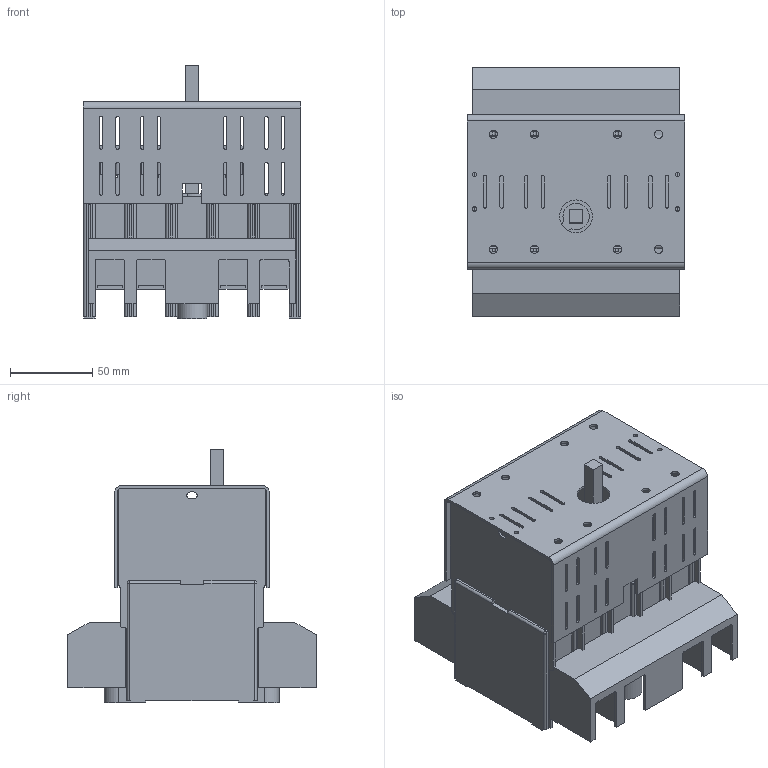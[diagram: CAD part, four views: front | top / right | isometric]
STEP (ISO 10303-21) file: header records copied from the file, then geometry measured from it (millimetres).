
FILE_DESCRIPTION(/* description */ (''),/* implementation_level */ '2;1');
FILE_NAME(/* name */ 'RAB 000 P3 N, P4 z oslona zaciskow.stp',/* time_stamp */ '2021-08-19T09:45:04+02:00',/* author */ (''),/* organization */ (''),/* preprocessor_version */ 'ST-DEVELOPER v18.1',/* originating_system */ 'SIEMENS PLM Software NX 1965',/* authorisation */ '');
FILE_SCHEMA (('AUTOMOTIVE_DESIGN { 1 0 10303 214 3 1 1 1 }'));
Length unit declared in the file: millimetre
Products named in the file (1): RAB 000 P3 N, P4 z oslona zaciskow_stp
Bounding box: 132.5 x 151.03 x 154 mm (x, y, z)
Volume: 775272.1 mm3; surface area: 258470 mm2
Topology: 1 solids, 1 shells, 1153 faces, 3353 edges, 2165 vertices
Faces by surface type: plane 771, cylinder 358, sphere 23, bspline 1
Full cylindrical faces by diameter (mm): 2.7 x4, 5 x8, 5.8 x2, 6.5 x8, 10 x2, 11.5 x2, 20 x1
Entity records: 37774 total; most frequent: CARTESIAN_POINT 6893, ORIENTED_EDGE 6576, DIRECTION 6216, EDGE_CURVE 3288, LINE 2504, VECTOR 2504, VERTEX_POINT 2151, AXIS2_PLACEMENT_3D 1856
